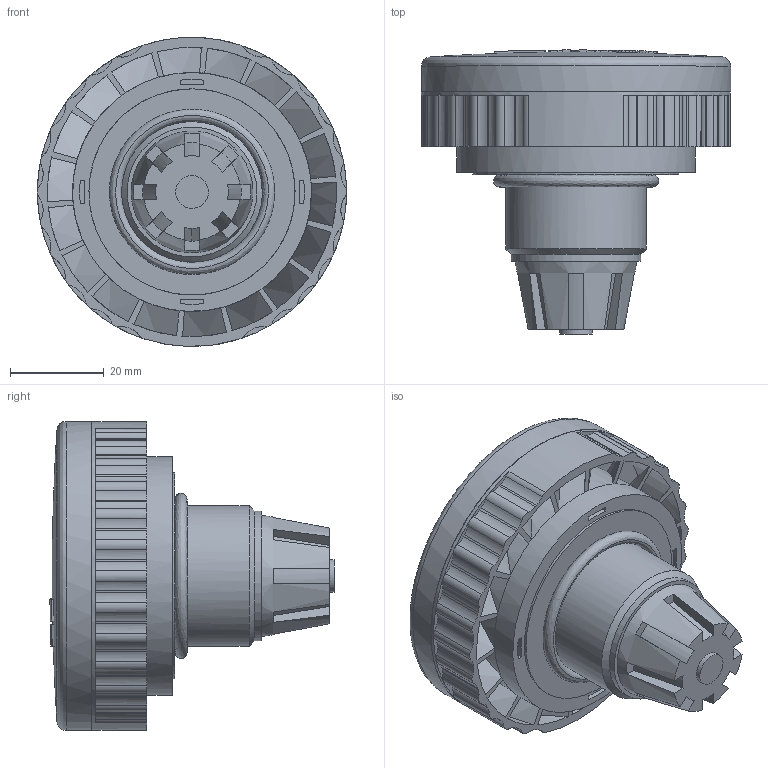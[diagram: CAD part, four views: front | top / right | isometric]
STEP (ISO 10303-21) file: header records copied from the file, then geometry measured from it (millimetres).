
FILE_DESCRIPTION((''),'2;1');
FILE_NAME('U:\Users\r.stiegele\14791400(238066).stp', '2014-03-11T11:27:19',('User'),('SDRC'),'I-DEAS Master Series 9','UNIX', 'Yes');
FILE_SCHEMA(('AUTOMOTIVE_DESIGN { 1 0 10303 214 1 1 1 1 }'));
Length unit declared in the file: millimetre
Products named in the file (1): 14791400(238066)
Bounding box: 66 x 60.66 x 65.96 mm (x, y, z)
Volume: 87173.2 mm3; surface area: 26754.8 mm2
Topology: 1 solids, 1 shells, 526 faces, 1512 edges, 980 vertices
Faces by surface type: bspline 526
Entity records: 18535 total; most frequent: CARTESIAN_POINT 10307, ORIENTED_EDGE 3022, EDGE_CURVE 1511, VERTEX_POINT 980, EDGE_LOOP 553, FACE_OUTER_BOUND 526, ADVANCED_FACE 526, B_SPLINE_CURVE_WITH_KNOTS 509
